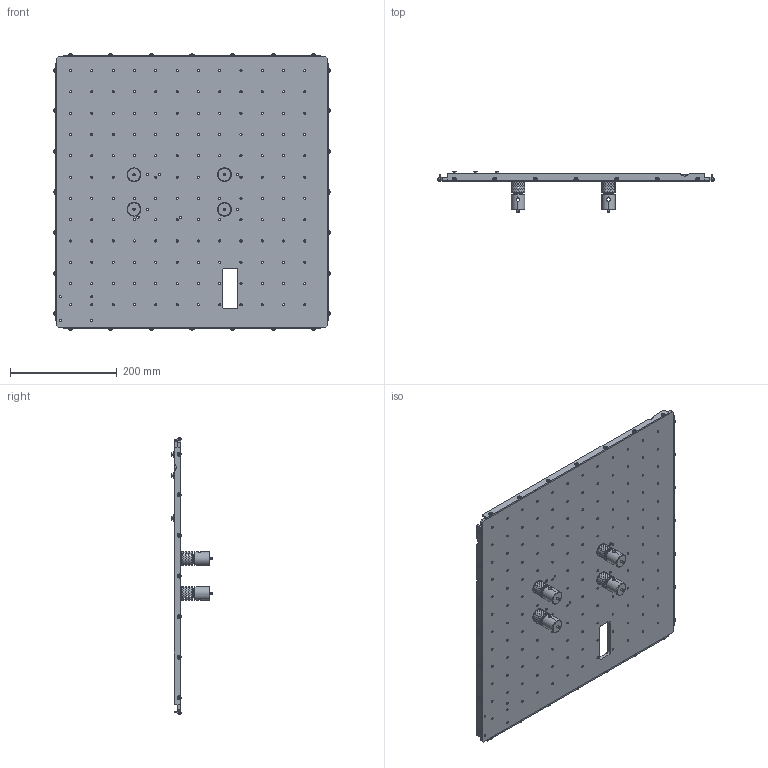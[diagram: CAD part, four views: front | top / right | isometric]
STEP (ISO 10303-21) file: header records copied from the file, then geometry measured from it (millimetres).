
FILE_DESCRIPTION (( 'STEP AP214' ), '1' );
FILE_NAME ('67B2802E-302B-4EFD-B650-99DF215C7420.STEP', '2023-01-27T11:38:03', ( '' ), ( '' ), 'SwSTEP 2.0', 'SolidWorks 2022', '' );
FILE_SCHEMA (( 'AUTOMOTIVE_DESIGN' ));
Length unit declared in the file: inch
Products named in the file (1): 67B2802E-302B-4EFD-B650-99DF215C7420
Bounding box: 518.75 x 77.73 x 518.75 mm (x, y, z)
Surface area: 629108.5 mm2 (no closed solid volume)
Topology: 0 solids, 394 shells, 1931 faces, 6793 edges, 5227 vertices
Faces by surface type: cylinder 1059, bspline 398, plane 341, torus 74, cone 59
Entity records: 91662 total; most frequent: CARTESIAN_POINT 44161, ORIENTED_EDGE 9714, DIRECTION 7878, EDGE_CURVE 6791, VERTEX_POINT 5227, AXIS2_PLACEMENT_3D 3240, EDGE_LOOP 2425, FACE_OUTER_BOUND 1931
